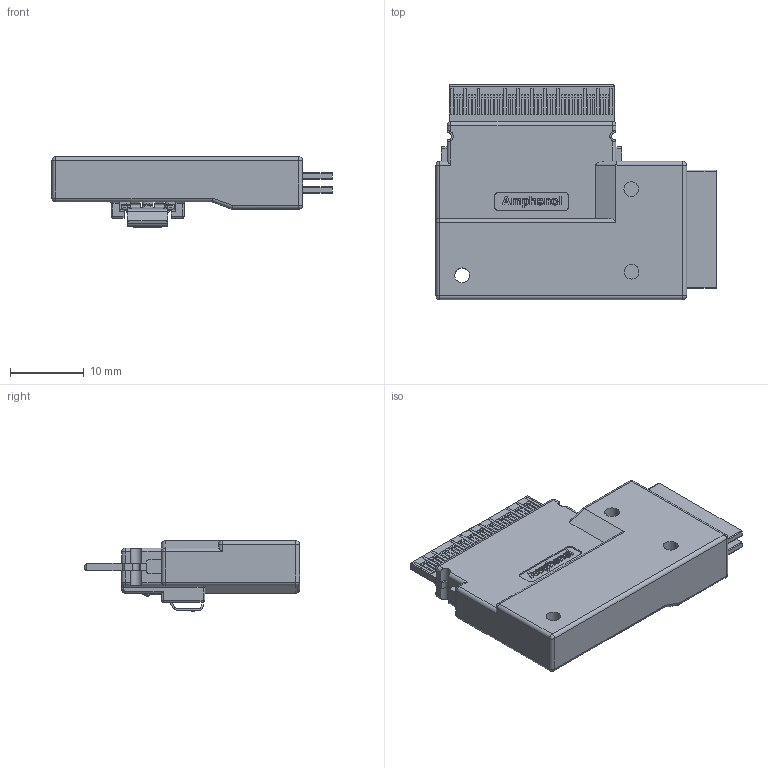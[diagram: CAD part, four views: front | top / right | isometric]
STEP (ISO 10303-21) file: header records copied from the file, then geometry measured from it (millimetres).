
FILE_DESCRIPTION((''),'2;1');
FILE_NAME('RIGHT_SIDE_EXIT__SLIMSAS_8I_AST_ASM','2016-08-18T',('louischan'),(''),'PRO/ENGINEER BY PARAMETRIC TECHNOLOGY CORPORATION, 2013230','PRO/ENGINEER BY PARAMETRIC TECHNOLOGY CORPORATION, 2013230','');
FILE_SCHEMA(('CONFIG_CONTROL_DESIGN'));
Length unit declared in the file: millimetre
Products named in the file (7): PRT0022_2; PRT0023_1; PRT0024_1; PRT0025_2; PLUG_ASM_2_ASM_1_ASM; 16_ASM_1_ASM; RIGHT_SIDE_EXIT__SLIMSAS_8I_AST_ASM
Assembly tree (7 placements, depth 4):
  RIGHT_SIDE_EXIT__SLIMSAS_8I_AST_ASM
    16_ASM_1_ASM
      PLUG_ASM_2_ASM_1_ASM
        PRT0022_2
        PRT0023_1
        PRT0024_1
        PRT0025_2  x2
Bounding box: 38 x 29.2 x 9.54 mm (x, y, z)
Volume: 4915.4 mm3; surface area: 5398.6 mm2
Topology: 5 solids, 5 shells, 1105 faces, 2853 edges, 1865 vertices
Faces by surface type: plane 835, cylinder 157, extrusion 73, sphere 17, bspline 12, torus 11
Entity records: 33916 total; most frequent: CARTESIAN_POINT 7164, ORIENTED_EDGE 5624, DIRECTION 5077, EDGE_CURVE 2812, VECTOR 2353, LINE 2280, VERTEX_POINT 1849, AXIS2_PLACEMENT_3D 1362
